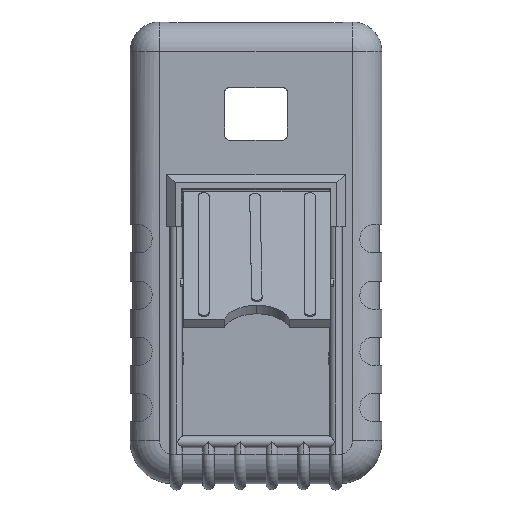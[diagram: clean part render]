
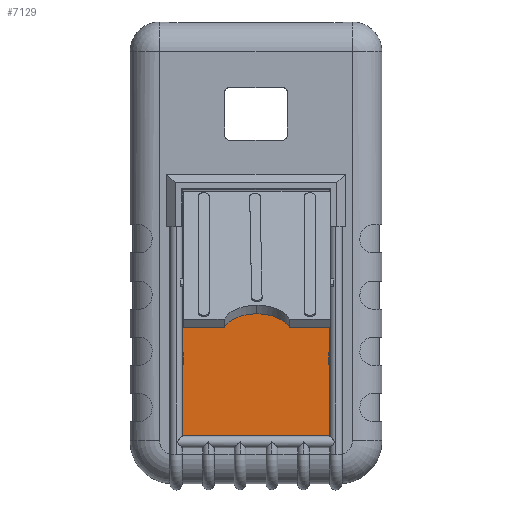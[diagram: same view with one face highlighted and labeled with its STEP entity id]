
A CAD part, front view. The second image highlights one B-rep face of the part: STEP entity #7129.
In plain terms, the highlighted planar face has unit normal (0, -1, 0).
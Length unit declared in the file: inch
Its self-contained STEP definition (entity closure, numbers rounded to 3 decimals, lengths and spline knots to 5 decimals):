
#52 = LINE ( 'NONE', #12184, #13972 ) ;
#180 = VECTOR ( 'NONE', #15513, 39.37008 ) ;
#196 = DIRECTION ( 'NONE',  ( 1., 0., 0. ) ) ;
#468 = VERTEX_POINT ( 'NONE', #16997 ) ;
#483 = EDGE_CURVE ( 'NONE', #4363, #7257, #5443, .T. ) ;
#603 = DIRECTION ( 'NONE',  ( 0., -1., 0. ) ) ;
#783 = EDGE_CURVE ( 'NONE', #5290, #15902, #4799, .T. ) ;
#818 = EDGE_CURVE ( 'NONE', #16600, #15880, #1083, .T. ) ;
#854 = ORIENTED_EDGE ( 'NONE', *, *, #15845, .T. ) ;
#866 = ORIENTED_EDGE ( 'NONE', *, *, #5544, .T. ) ;
#920 = EDGE_CURVE ( 'NONE', #468, #12215, #7188, .T. ) ;
#1083 = LINE ( 'NONE', #12591, #8062 ) ;
#1211 = CARTESIAN_POINT ( 'NONE',  ( 0.87873, 0.03, -2.17944 ) ) ;
#1216 = DIRECTION ( 'NONE',  ( 0., 0., 1. ) ) ;
#1412 = DIRECTION ( 'NONE',  ( 0., 0., 1. ) ) ;
#1521 = VECTOR ( 'NONE', #12719, 39.37008 ) ;
#1757 = VECTOR ( 'NONE', #2721, 39.37008 ) ;
#1848 = ORIENTED_EDGE ( 'NONE', *, *, #483, .T. ) ;
#1870 = CARTESIAN_POINT ( 'NONE',  ( -0.87873, 0.03, 0.31356 ) ) ;
#2028 = VECTOR ( 'NONE', #8809, 39.37008 ) ;
#2223 = EDGE_CURVE ( 'NONE', #4075, #14825, #14535, .T. ) ;
#2498 = CARTESIAN_POINT ( 'NONE',  ( 0.86689, 0.03, -1.32858 ) ) ;
#2716 = VERTEX_POINT ( 'NONE', #12436 ) ;
#2721 = DIRECTION ( 'NONE',  ( -1., 0., 0. ) ) ;
#3125 = LINE ( 'NONE', #18037, #9647 ) ;
#3145 = LINE ( 'NONE', #3884, #13770 ) ;
#3202 = DIRECTION ( 'NONE',  ( -1., 0., 0. ) ) ;
#3360 = ORIENTED_EDGE ( 'NONE', *, *, #783, .F. ) ;
#3551 = LINE ( 'NONE', #8175, #14202 ) ;
#3661 = LINE ( 'NONE', #16445, #10617 ) ;
#3884 = CARTESIAN_POINT ( 'NONE',  ( -0.87873, 0.03, 0.31356 ) ) ;
#3899 = ORIENTED_EDGE ( 'NONE', *, *, #17806, .T. ) ;
#3976 = LINE ( 'NONE', #9505, #10933 ) ;
#4012 = LINE ( 'NONE', #11681, #17903 ) ;
#4035 = EDGE_LOOP ( 'NONE', ( #16151, #17894, #866, #12663, #3899, #1848, #6642, #8965, #16895, #3360, #7649, #7446, #10367, #854, #10938, #12460 ) ) ;
#4075 = VERTEX_POINT ( 'NONE', #7134 ) ;
#4363 = VERTEX_POINT ( 'NONE', #12664 ) ;
#4743 = CARTESIAN_POINT ( 'NONE',  ( -0.87873, 0.03, 0.31356 ) ) ;
#4799 = LINE ( 'NONE', #6956, #1521 ) ;
#4913 = CARTESIAN_POINT ( 'NONE',  ( -0.87873, 0.03, -1.18858 ) ) ;
#5253 = DIRECTION ( 'NONE',  ( 0., 0., 1. ) ) ;
#5290 = VERTEX_POINT ( 'NONE', #6167 ) ;
#5443 = LINE ( 'NONE', #7357, #1757 ) ;
#5544 = EDGE_CURVE ( 'NONE', #8345, #468, #9691, .T. ) ;
#5637 = CARTESIAN_POINT ( 'NONE',  ( 0.86689, 0.03, -1.18858 ) ) ;
#6084 = CARTESIAN_POINT ( 'NONE',  ( 0., 0.03, 0. ) ) ;
#6137 = PLANE ( 'NONE',  #13743 ) ;
#6167 = CARTESIAN_POINT ( 'NONE',  ( -0.86689, 0.03, -1.18858 ) ) ;
#6278 = EDGE_CURVE ( 'NONE', #17657, #6889, #6607, .T. ) ;
#6477 = EDGE_CURVE ( 'NONE', #14825, #16583, #3976, .T. ) ;
#6516 = EDGE_CURVE ( 'NONE', #7257, #16600, #3551, .T. ) ;
#6530 = EDGE_CURVE ( 'NONE', #12411, #8345, #10519, .T. ) ;
#6607 = LINE ( 'NONE', #1870, #2028 ) ;
#6642 = ORIENTED_EDGE ( 'NONE', *, *, #6516, .T. ) ;
#6812 = DIRECTION ( 'NONE',  ( 1., 0., 0. ) ) ;
#6889 = VERTEX_POINT ( 'NONE', #8095 ) ;
#6956 = CARTESIAN_POINT ( 'NONE',  ( 0., 0.03, -1.18858 ) ) ;
#7129 = ADVANCED_FACE ( 'NONE', ( #16342 ), #6137, .T. ) ;
#7134 = CARTESIAN_POINT ( 'NONE',  ( 0.87873, 0.03, -2.17944 ) ) ;
#7188 = LINE ( 'NONE', #9502, #14566 ) ;
#7199 = CARTESIAN_POINT ( 'NONE',  ( 0.87873, 0.03, -2.17944 ) ) ;
#7257 = VERTEX_POINT ( 'NONE', #14738 ) ;
#7357 = CARTESIAN_POINT ( 'NONE',  ( -0.875, 0.03, 0.4195 ) ) ;
#7446 = ORIENTED_EDGE ( 'NONE', *, *, #12320, .F. ) ;
#7649 = ORIENTED_EDGE ( 'NONE', *, *, #16073, .F. ) ;
#7983 = CARTESIAN_POINT ( 'NONE',  ( 0.87873, 0.03, -1.18858 ) ) ;
#8062 = VECTOR ( 'NONE', #3202, 39.37008 ) ;
#8095 = CARTESIAN_POINT ( 'NONE',  ( -0.87873, 0.03, -2.17944 ) ) ;
#8163 = CARTESIAN_POINT ( 'NONE',  ( 0.86689, 0.03, 0. ) ) ;
#8175 = CARTESIAN_POINT ( 'NONE',  ( -0.875, 0.03, 0.62556 ) ) ;
#8345 = VERTEX_POINT ( 'NONE', #7983 ) ;
#8809 = DIRECTION ( 'NONE',  ( 0., 0., -1. ) ) ;
#8965 = ORIENTED_EDGE ( 'NONE', *, *, #818, .T. ) ;
#9502 = CARTESIAN_POINT ( 'NONE',  ( 0.87873, 0.03, 0.31356 ) ) ;
#9505 = CARTESIAN_POINT ( 'NONE',  ( 0., 0.03, -1.32858 ) ) ;
#9569 = DIRECTION ( 'NONE',  ( 0., 0., -1. ) ) ;
#9647 = VECTOR ( 'NONE', #1412, 39.37008 ) ;
#9691 = LINE ( 'NONE', #1211, #17078 ) ;
#10339 = EDGE_CURVE ( 'NONE', #16583, #12411, #17366, .T. ) ;
#10347 = DIRECTION ( 'NONE',  ( 0., 0., -1. ) ) ;
#10367 = ORIENTED_EDGE ( 'NONE', *, *, #6278, .T. ) ;
#10519 = LINE ( 'NONE', #16850, #17450 ) ;
#10617 = VECTOR ( 'NONE', #6812, 39.37008 ) ;
#10933 = VECTOR ( 'NONE', #12295, 39.37008 ) ;
#10938 = ORIENTED_EDGE ( 'NONE', *, *, #2223, .T. ) ;
#11681 = CARTESIAN_POINT ( 'NONE',  ( -0.87873, 0.03, -2.17944 ) ) ;
#12167 = CARTESIAN_POINT ( 'NONE',  ( -0.87873, 0.03, -1.32858 ) ) ;
#12184 = CARTESIAN_POINT ( 'NONE',  ( -0.86689, 0.03, 0. ) ) ;
#12215 = VERTEX_POINT ( 'NONE', #16092 ) ;
#12295 = DIRECTION ( 'NONE',  ( -1., 0., 0. ) ) ;
#12320 = EDGE_CURVE ( 'NONE', #17657, #2716, #3661, .T. ) ;
#12411 = VERTEX_POINT ( 'NONE', #5637 ) ;
#12436 = CARTESIAN_POINT ( 'NONE',  ( -0.86689, 0.03, -1.32858 ) ) ;
#12460 = ORIENTED_EDGE ( 'NONE', *, *, #6477, .T. ) ;
#12591 = CARTESIAN_POINT ( 'NONE',  ( -0.875, 0.03, 0.31356 ) ) ;
#12663 = ORIENTED_EDGE ( 'NONE', *, *, #920, .T. ) ;
#12664 = CARTESIAN_POINT ( 'NONE',  ( 0.875, 0.03, 0.4195 ) ) ;
#12719 = DIRECTION ( 'NONE',  ( -1., 0., 0. ) ) ;
#13659 = VECTOR ( 'NONE', #1216, 39.37008 ) ;
#13713 = DIRECTION ( 'NONE',  ( 0., 0., 1. ) ) ;
#13743 = AXIS2_PLACEMENT_3D ( 'NONE', #6084, #603, #10347 ) ;
#13770 = VECTOR ( 'NONE', #15000, 39.37008 ) ;
#13972 = VECTOR ( 'NONE', #5253, 39.37008 ) ;
#13974 = DIRECTION ( 'NONE',  ( -1., 0., 0. ) ) ;
#14202 = VECTOR ( 'NONE', #9569, 39.37008 ) ;
#14535 = LINE ( 'NONE', #7199, #180 ) ;
#14566 = VECTOR ( 'NONE', #13974, 39.37008 ) ;
#14632 = CARTESIAN_POINT ( 'NONE',  ( 0.87873, 0.03, -1.32858 ) ) ;
#14738 = CARTESIAN_POINT ( 'NONE',  ( -0.875, 0.03, 0.4195 ) ) ;
#14825 = VERTEX_POINT ( 'NONE', #14632 ) ;
#15000 = DIRECTION ( 'NONE',  ( 0., 0., -1. ) ) ;
#15513 = DIRECTION ( 'NONE',  ( 0., 0., 1. ) ) ;
#15794 = DIRECTION ( 'NONE',  ( 1., 0., 0. ) ) ;
#15845 = EDGE_CURVE ( 'NONE', #6889, #4075, #4012, .T. ) ;
#15880 = VERTEX_POINT ( 'NONE', #4743 ) ;
#15902 = VERTEX_POINT ( 'NONE', #4913 ) ;
#16073 = EDGE_CURVE ( 'NONE', #2716, #5290, #52, .T. ) ;
#16092 = CARTESIAN_POINT ( 'NONE',  ( 0.875, 0.03, 0.31356 ) ) ;
#16151 = ORIENTED_EDGE ( 'NONE', *, *, #10339, .T. ) ;
#16342 = FACE_OUTER_BOUND ( 'NONE', #4035, .T. ) ;
#16445 = CARTESIAN_POINT ( 'NONE',  ( 0., 0.03, -1.32858 ) ) ;
#16583 = VERTEX_POINT ( 'NONE', #2498 ) ;
#16600 = VERTEX_POINT ( 'NONE', #17790 ) ;
#16850 = CARTESIAN_POINT ( 'NONE',  ( 0., 0.03, -1.18858 ) ) ;
#16867 = EDGE_CURVE ( 'NONE', #15880, #15902, #3145, .T. ) ;
#16895 = ORIENTED_EDGE ( 'NONE', *, *, #16867, .T. ) ;
#16997 = CARTESIAN_POINT ( 'NONE',  ( 0.87873, 0.03, 0.31356 ) ) ;
#17078 = VECTOR ( 'NONE', #13713, 39.37008 ) ;
#17366 = LINE ( 'NONE', #8163, #13659 ) ;
#17450 = VECTOR ( 'NONE', #196, 39.37008 ) ;
#17657 = VERTEX_POINT ( 'NONE', #12167 ) ;
#17790 = CARTESIAN_POINT ( 'NONE',  ( -0.875, 0.03, 0.31356 ) ) ;
#17806 = EDGE_CURVE ( 'NONE', #12215, #4363, #3125, .T. ) ;
#17894 = ORIENTED_EDGE ( 'NONE', *, *, #6530, .T. ) ;
#17903 = VECTOR ( 'NONE', #15794, 39.37008 ) ;
#18037 = CARTESIAN_POINT ( 'NONE',  ( 0.875, 0.03, 0.31356 ) ) ;
